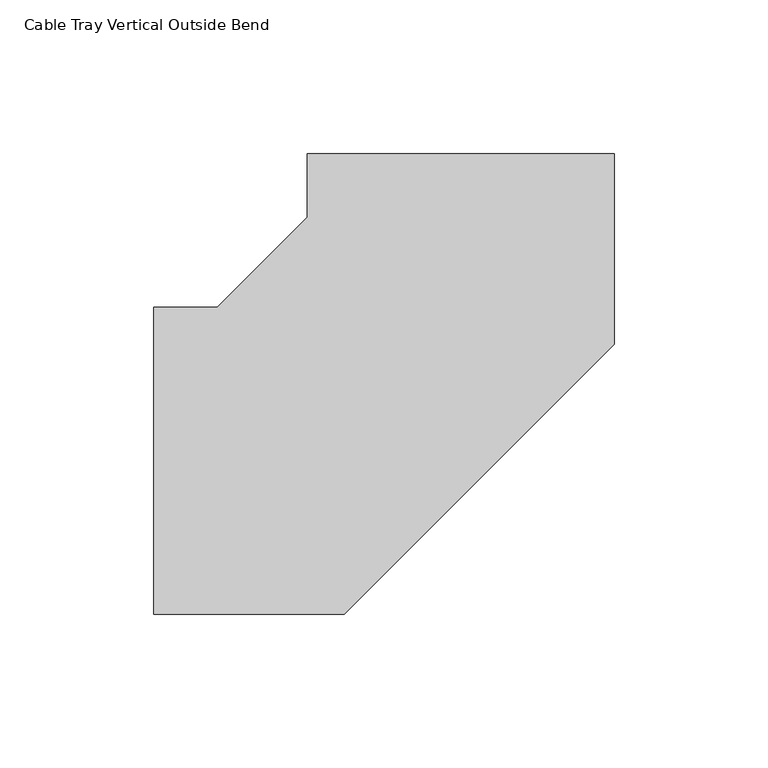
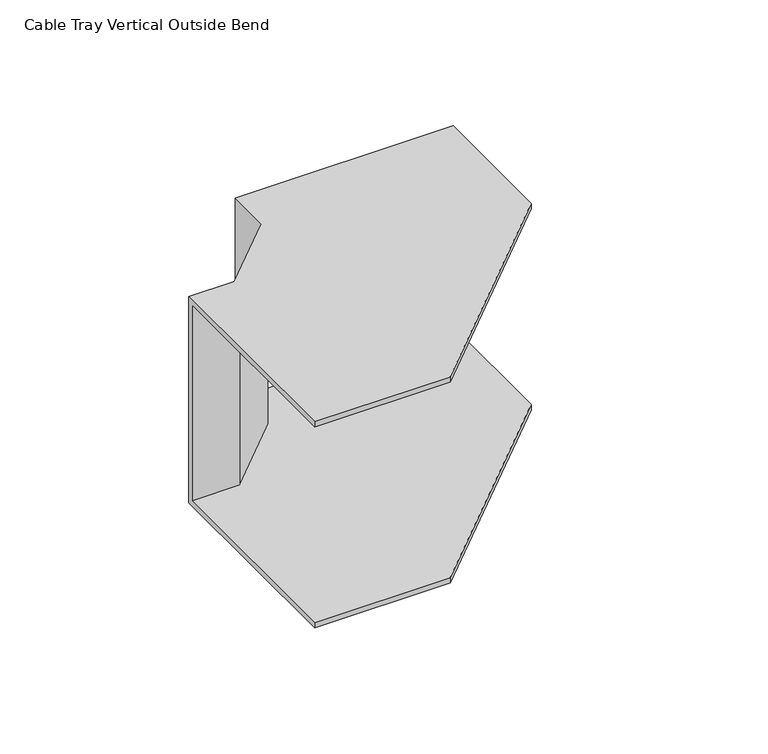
"""IFC4 building model written with IfcOpenShell, lengths in millimetres: cable carrier fitting geometry, Cable Tray Vertical Outside Bend : ELEC_ELV_TKG_N2402."""

from ifc_helpers import new_model, si_unit, origin, place, context, project, spatial, faceted_brep, source, transform, mapped, element, save


def cable_tray_vertical_outside_bend_6acd1b9b(model_context):
    return source(origin(), model_context, "Body", "Brep", [
        faceted_brep([(-100.0014612, -50.0, 50.0), (-100.0014612, 50.0, 50.0), (-100.0014612, 50.0, -50.0), (-100.0014612, -50.0, -50.0), (-100.0014612, -50.0, -47.46), (-100.0014612, 47.46, -47.46), (-100.0014612, 47.46, 47.46), (-100.0014612, -50.0, 47.46), (49.9985387, 100.0021918, 50.0), (49.9985387, 100.0021918, 47.46), (-47.4614613, 100.0007677, 47.46), (-47.4614613, 100.0007677, -47.46), (49.9985387, 100.0021918, -47.46), (49.9985387, 100.0021918, -50.0), (-50.0014612, 100.0007306, -50.0), (-50.0014612, 100.0007306, 50.0), (-37.8687849, -50.0, 50.0), (49.9994466, 37.8695155, 50.0), (-50.0011586, 79.2898385, 50.0), (-79.2905691, 50.0, 50.0), (-79.2905691, 50.0, -50.0), (-50.0011586, 79.2898385, -50.0), (49.9994466, 37.8695155, -50.0), (-37.8687849, -50.0, -50.0), (-37.8687849, -50.0, -47.46), (49.9994466, 37.8695155, -47.46), (-47.4611432, 78.2377623, -47.46), (-78.2384558, 47.46, -47.46), (-78.2384558, 47.46, 47.46), (-47.4611432, 78.2377623, 47.46), (49.9994466, 37.8695155, 47.46), (-37.8687849, -50.0, 47.46)], [[[0, 1, 2, 3, 4, 5, 6, 7]], [[8, 9, 10, 11, 12, 13, 14, 15]], [[1, 0, 16, 17, 8, 15, 18, 19]], [[2, 1, 19, 20]], [[3, 2, 20, 21, 14, 13, 22, 23]], [[4, 3, 23, 24]], [[5, 4, 24, 25, 12, 11, 26, 27]], [[6, 5, 27, 28]], [[7, 6, 28, 29, 10, 9, 30, 31]], [[0, 7, 31, 16]], [[20, 19, 18, 21]], [[24, 23, 22, 25]], [[28, 27, 26, 29]], [[16, 31, 30, 17]], [[21, 18, 15, 14]], [[25, 22, 13, 12]], [[29, 26, 11, 10]], [[17, 30, 9, 8]]]),
    ])


if __name__ == "__main__":
    model = new_model("IFC4")
    model_context = context("Model", 3, world=origin())
    ifc_project = project(units=[si_unit("LENGTHUNIT", "METRE", prefix="MILLI")], contexts=[model_context])
    site = spatial("IfcSite", under=ifc_project)
    building = spatial("IfcBuilding", under=site)
    placement = place(None, origin())
    cable_tray_vertical_outside_bend_shape = cable_tray_vertical_outside_bend_6acd1b9b(model_context)
    element("IfcCableCarrierFitting", 1, ObjectType="Cable Tray Vertical Outside Bend : ELEC_ELV_TKG_N2402", at=placement, inside=building, context=model_context, shape_type="MappedRepresentation", body=[
        mapped(cable_tray_vertical_outside_bend_shape, transform((0.0, 0.0, 0.0), x_axis=(1.0, 0.0, 0.0), y_axis=(0.0, 1.0, 0.0), z_axis=(0.0, 0.0, 1.0))),
    ])
    save(model, "model.ifc")
